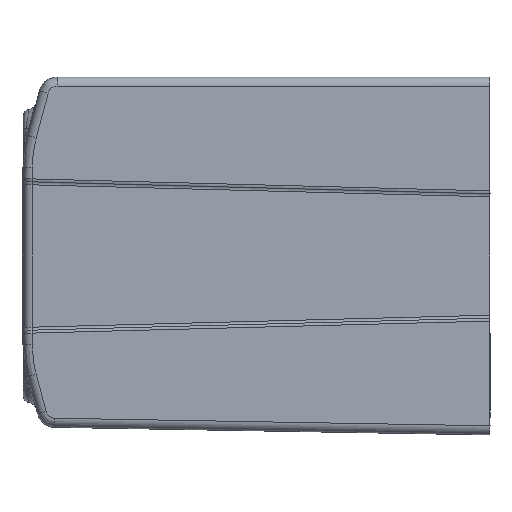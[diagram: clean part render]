
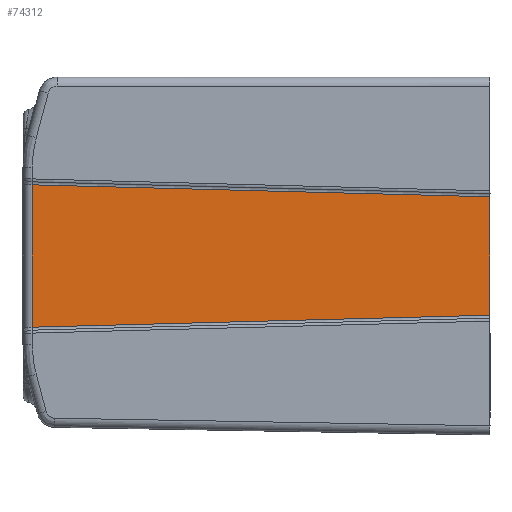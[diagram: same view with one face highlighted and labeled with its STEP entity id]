
A CAD part, left-side view. The second image highlights one B-rep face of the part: STEP entity #74312.
In plain terms, the highlighted planar face has unit normal (-1, 0.018, 0).
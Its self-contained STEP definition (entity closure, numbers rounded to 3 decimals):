
#1395 = VERTEX_POINT ( 'NONE', #67355 ) ;
#1570 = LINE ( 'NONE', #49532, #23963 ) ;
#3472 = EDGE_CURVE ( 'NONE', #36934, #49864, #20688, .T. ) ;
#3638 = FACE_OUTER_BOUND ( 'NONE', #36761, .T. ) ;
#8580 = DIRECTION ( 'NONE',  ( -0.017, -1., 0. ) ) ;
#15336 = EDGE_CURVE ( 'NONE', #1395, #36934, #33857, .T. ) ;
#15436 = ORIENTED_EDGE ( 'NONE', *, *, #70719, .T. ) ;
#19152 = CARTESIAN_POINT ( 'NONE',  ( -14.525, 0., -4.9 ) ) ;
#20688 = LINE ( 'NONE', #49025, #23222 ) ;
#22573 = VECTOR ( 'NONE', #55240, 1000. ) ;
#22947 = CARTESIAN_POINT ( 'NONE',  ( -13.858, 38.204, 5.847 ) ) ;
#23222 = VECTOR ( 'NONE', #65985, 1000. ) ;
#23919 = ORIENTED_EDGE ( 'NONE', *, *, #15336, .T. ) ;
#23963 = VECTOR ( 'NONE', #61218, 1000. ) ;
#28241 = DIRECTION ( 'NONE',  ( 0.017, 1., 0.026 ) ) ;
#28527 = VERTEX_POINT ( 'NONE', #61376 ) ;
#31958 = DIRECTION ( 'NONE',  ( -1., 0.017, 0. ) ) ;
#32904 = CARTESIAN_POINT ( 'NONE',  ( -14.525, 0.004, -4.847 ) ) ;
#33857 = LINE ( 'NONE', #22947, #37968 ) ;
#34419 = ORIENTED_EDGE ( 'NONE', *, *, #3472, .T. ) ;
#36312 = ORIENTED_EDGE ( 'NONE', *, *, #56409, .T. ) ;
#36761 = EDGE_LOOP ( 'NONE', ( #23919, #34419, #36312, #15436 ) ) ;
#36874 = PLANE ( 'NONE',  #63105 ) ;
#36934 = VERTEX_POINT ( 'NONE', #45828 ) ;
#37968 = VECTOR ( 'NONE', #28241, 1000. ) ;
#44612 = LINE ( 'NONE', #32904, #22573 ) ;
#45828 = CARTESIAN_POINT ( 'NONE',  ( -13.871, 37.463, 5.828 ) ) ;
#49025 = CARTESIAN_POINT ( 'NONE',  ( -13.871, 37.463, -5.847 ) ) ;
#49532 = CARTESIAN_POINT ( 'NONE',  ( -14.525, 0., -4.9 ) ) ;
#49864 = VERTEX_POINT ( 'NONE', #63723 ) ;
#55240 = DIRECTION ( 'NONE',  ( -0.017, -1., 0.026 ) ) ;
#56409 = EDGE_CURVE ( 'NONE', #49864, #28527, #44612, .T. ) ;
#61218 = DIRECTION ( 'NONE',  ( 0., 0., 1. ) ) ;
#61376 = CARTESIAN_POINT ( 'NONE',  ( -14.525, 0., -4.847 ) ) ;
#63105 = AXIS2_PLACEMENT_3D ( 'NONE', #19152, #31958, #8580 ) ;
#63723 = CARTESIAN_POINT ( 'NONE',  ( -13.871, 37.463, -5.828 ) ) ;
#65985 = DIRECTION ( 'NONE',  ( 0., 0., -1. ) ) ;
#67355 = CARTESIAN_POINT ( 'NONE',  ( -14.525, 0., 4.847 ) ) ;
#70719 = EDGE_CURVE ( 'NONE', #28527, #1395, #1570, .T. ) ;
#74312 = ADVANCED_FACE ( 'NONE', ( #3638 ), #36874, .T. ) ;
